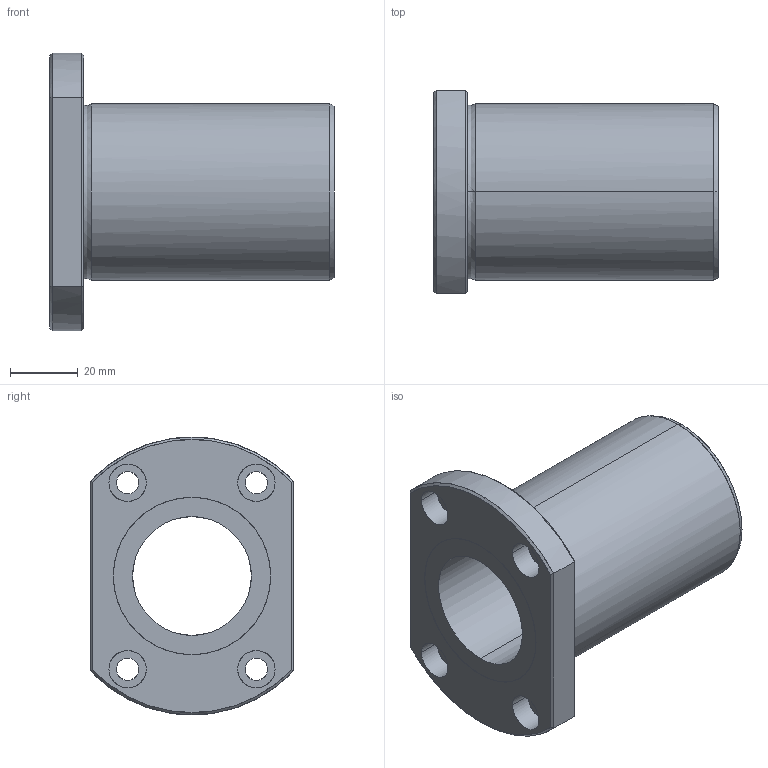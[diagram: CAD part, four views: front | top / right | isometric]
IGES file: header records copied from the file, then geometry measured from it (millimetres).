
Global section: file name: No Iges File Name specified; native system: AutoDesk Inventor R11.0; preprocessor: AutoDesk Inventor Iges Exporter R11.0; author: No Author specified; organization: No Organization specified; date: 20170921.131426; units: millimetre
Bounding box: 84 x 60 x 82 mm (x, y, z)
Surface area: 31429.7 mm2 (no closed solid volume)
Topology: 0 solids, 0 shells, 50 faces, 338 edges, 338 vertices
Faces by surface type: bspline 50
